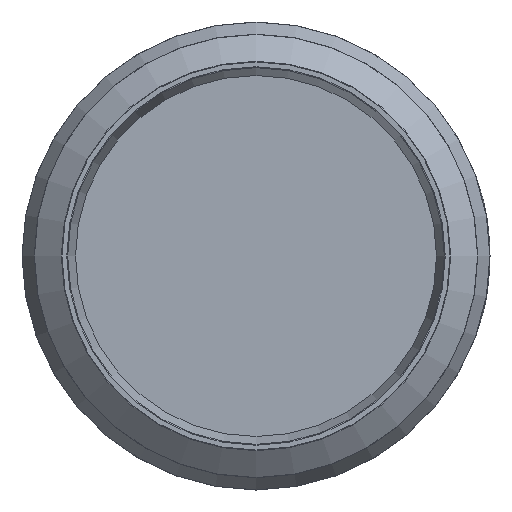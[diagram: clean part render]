
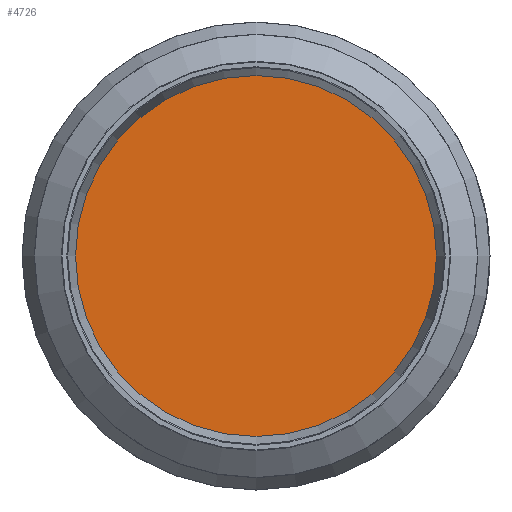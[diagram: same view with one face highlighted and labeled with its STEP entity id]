
A CAD part, left-side view. The second image highlights one B-rep face of the part: STEP entity #4726.
In plain terms, the highlighted planar face has unit normal (-1, 0, 0).
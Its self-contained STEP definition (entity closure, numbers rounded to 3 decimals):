
#77=PLANE('',#4985);
#1027=ORIENTED_EDGE('',*,*,#2010,.T.);
#2010=EDGE_CURVE('',#2503,#2503,#2743,.T.);
#2503=VERTEX_POINT('',#6501);
#2743=CIRCLE('',#4986,46.533);
#2829=EDGE_LOOP('',(#1027));
#3076=FACE_BOUND('',#2829,.T.);
#4726=ADVANCED_FACE('',(#3076),#77,.T.);
#4985=AXIS2_PLACEMENT_3D('',#6499,#5353,#5354);
#4986=AXIS2_PLACEMENT_3D('',#6500,#5355,#5356);
#5353=DIRECTION('',(-1.,0.,0.));
#5354=DIRECTION('',(0.,0.,1.));
#5355=DIRECTION('',(-1.,0.,0.));
#5356=DIRECTION('',(0.,0.,1.));
#6499=CARTESIAN_POINT('',(6.35,0.,0.));
#6500=CARTESIAN_POINT('',(6.35,0.,0.));
#6501=CARTESIAN_POINT('',(6.35,0.,46.533));
